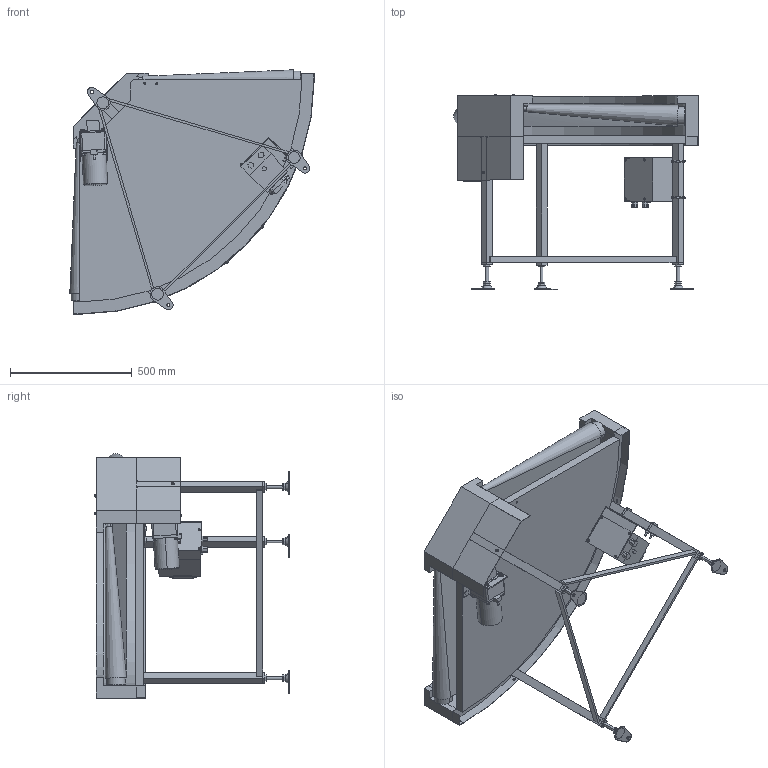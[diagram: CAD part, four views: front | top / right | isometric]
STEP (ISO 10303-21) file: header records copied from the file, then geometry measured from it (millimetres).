
FILE_DESCRIPTION (( 'STEP AP214' ), '1' );
FILE_NAME ('FBC-309-600-90°-L-IV-60.STEP', '2023-03-07T06:26:13', ( '' ), ( '' ), 'SwSTEP 2.0', 'SolidWorks 2017', '' );
FILE_SCHEMA (( 'AUTOMOTIVE_DESIGN' ));
Length unit declared in the file: millimetre
Products named in the file (1): FBC-309-600-90°-L-IV-60
Bounding box: 1002.08 x 797.9 x 1002.08 mm (x, y, z)
Volume: 88280861.3 mm3; surface area: 5966404.4 mm2
Topology: 41 solids, 42 shells, 1181 faces, 2781 edges, 1778 vertices
Faces by surface type: plane 670, cylinder 372, cone 69, torus 38, bspline 32
Entity records: 37811 total; most frequent: CARTESIAN_POINT 9820, DIRECTION 5787, ORIENTED_EDGE 5530, EDGE_CURVE 2765, AXIS2_PLACEMENT_3D 2048, VERTEX_POINT 1778, LINE 1691, VECTOR 1691
